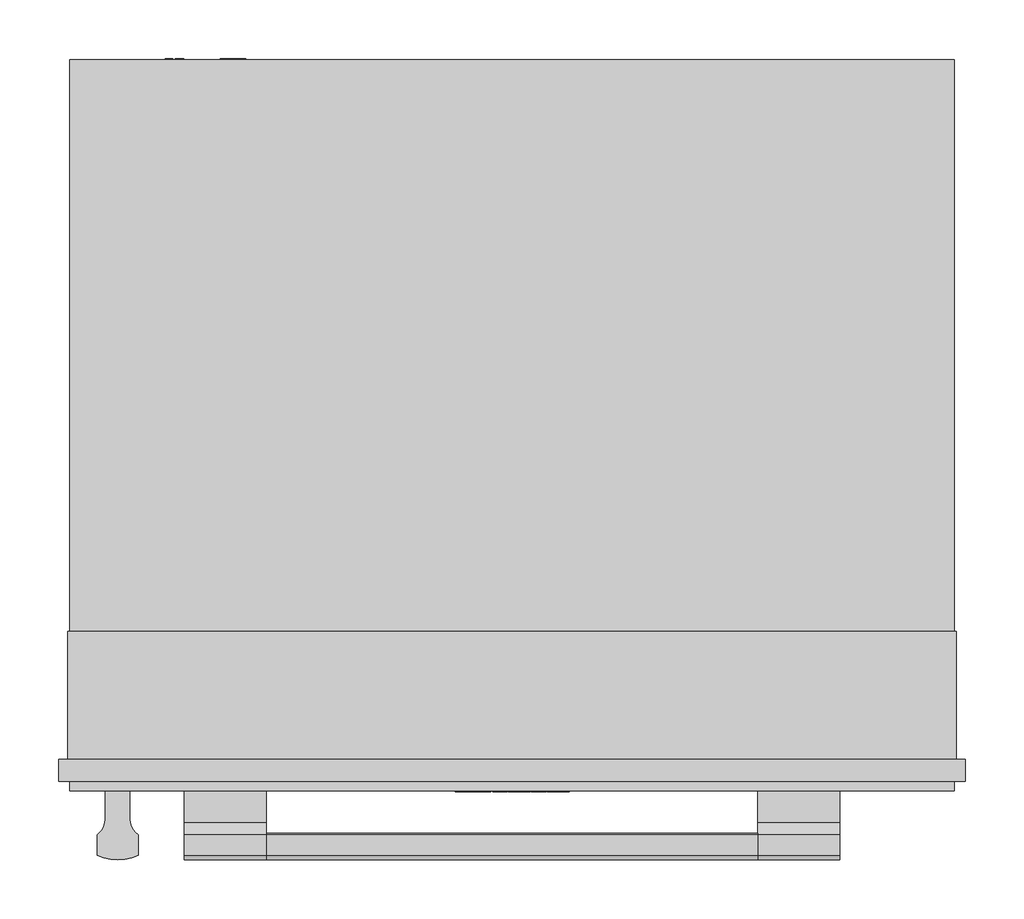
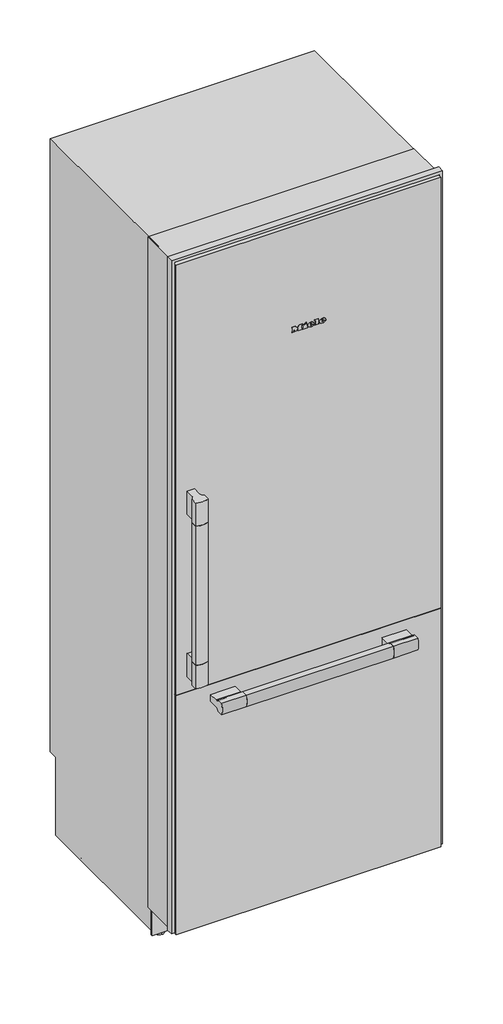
# Not in any storey: 1 proxy.
"""IFC4 building model written with IfcOpenShell, lengths in millimetres."""

from ifc_helpers import new_model, si_unit, origin, place, context, project, spatial, transform, mapped, element, save
from components import specialty_equipment_bdf38fb7, specialty_equipment_7db7d9b4

model = new_model("IFC4")

# Units and contexts
model_context = context("Model", 3, world=origin())
ifc_project = project(units=[si_unit("LENGTHUNIT", "METRE", prefix="MILLI")], contexts=[model_context])

# Site, building
site = spatial("IfcSite", under=ifc_project)
building = spatial("IfcBuilding", under=site)

# Proxy
placement = place(None, origin())
specialty_equipment_shape = specialty_equipment_bdf38fb7(model_context)
specialty_equipment_2_shape = specialty_equipment_7db7d9b4(model_context)
element("IfcBuildingElementProxy", 1, Name="11502900_USA_KF2802SF : 38280211_USA_11502900_KF2802SF", ObjectType="11502900_USA_KF2802SF : 38280211_USA_11502900_KF2802SF", at=placement, inside=building, context=model_context, shape_type="MappedRepresentation", body=[
    mapped(specialty_equipment_shape, transform((0.0, 0.0, 0.0), x_axis=(1.0, 0.0, 0.0), y_axis=(0.0, 1.0, 0.0), z_axis=(0.0, 0.0, 1.0))),
    mapped(specialty_equipment_2_shape, transform((0.0, 0.0, 0.0), x_axis=(1.0, 0.0, 0.0), y_axis=(0.0, 1.0, 0.0), z_axis=(0.0, 0.0, 1.0))),
])

save(model, "model.ifc")
